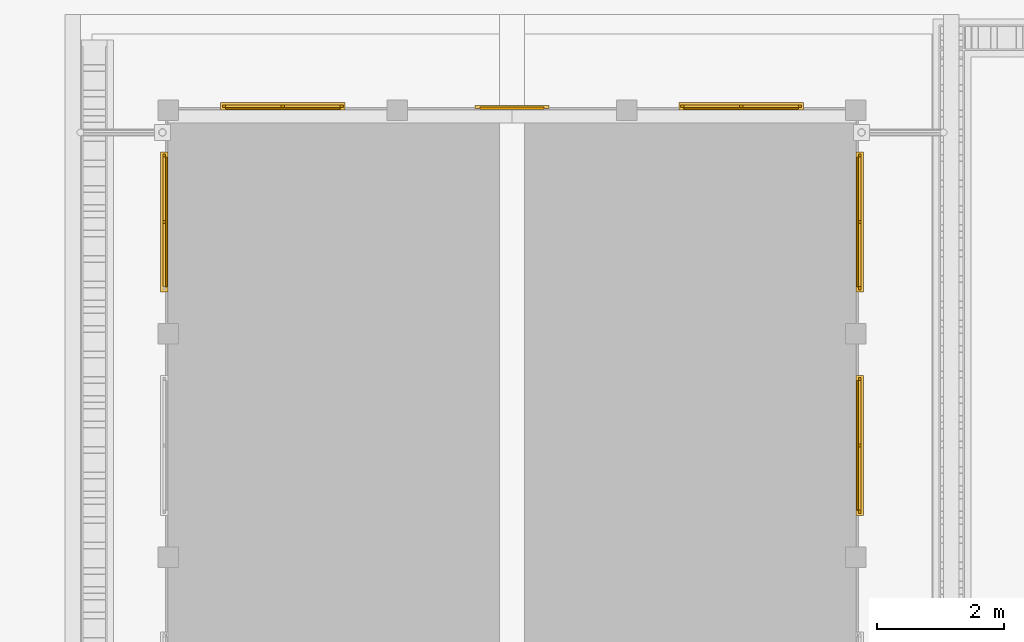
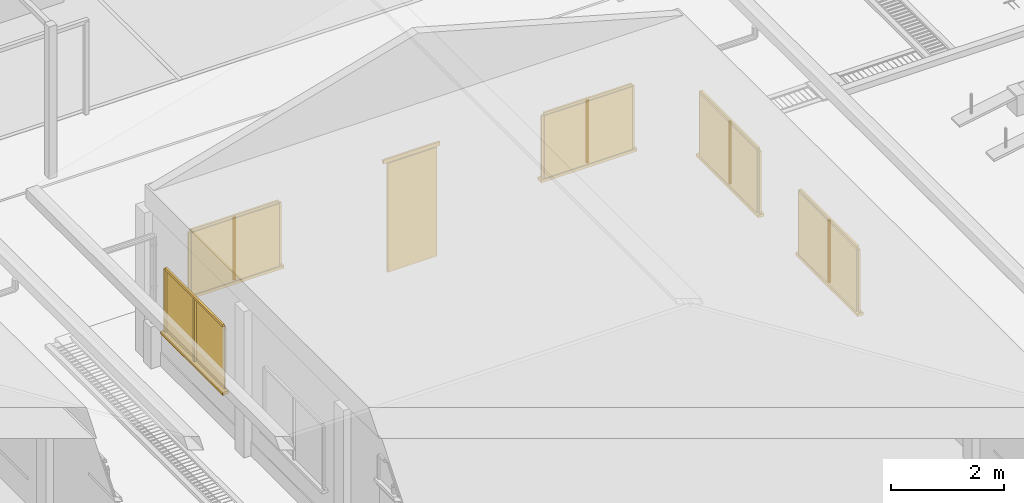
# One storey, part 50 of 151: 29 windows, 2 doors.
"""IFC2X3 building model written with IfcOpenShell, lengths in metres."""

from ifc_helpers import new_model, si_unit, origin, origin_with_axes, place, context, subcontext, project, spatial, faceted_brep, element, save


model = new_model("IFC2X3")

# Units and contexts
model_context = context("Model", 3, precision=1e-05, world=origin_with_axes())
body_context = subcontext(model_context, "Body", "Model", "MODEL_VIEW")
ifc_project = project(units=[si_unit("LENGTHUNIT", "METRE"), si_unit("AREAUNIT", "SQUARE_METRE"), si_unit("VOLUMEUNIT", "CUBIC_METRE"), si_unit("PLANEANGLEUNIT", "RADIAN")], contexts=[model_context])

# Site, building, storey
site_placement = place(None, origin_with_axes())
site = spatial("IfcSite", under=ifc_project, at=site_placement, Name="Predio Los Mangos - Morales, San Martín", CompositionType="ELEMENT")
building_placement = place(site_placement, origin())
building = spatial("IfcBuilding", under=site, at=building_placement, Name="Hogar de Refugio Temporal", CompositionType="ELEMENT")
storey_placement = place(building_placement, origin())
storey = spatial("IfcBuildingStorey", under=building, at=storey_placement, Name="NIVEL 1 (NPT +0.00)", CompositionType="ELEMENT", Elevation=0.0)

# Windows
window_1_placement = place(storey_placement, origin())
element("IfcWindow", 1, at=window_1_placement, inside=storey, Name="E-04_vg0_vid", ObjectType="Ventana", context=body_context, shape_type="Brep", body=[
    faceted_brep([(14.7, 87.22, 1.05), (14.7, 87.24, 1.05), (16.5, 87.24, 1.05), (16.5, 87.22, 1.05), (14.7, 87.22, 2.4), (16.5, 87.22, 2.4), (16.5, 87.24, 2.4), (14.7, 87.24, 2.4)], [[[0, 1, 2, 3]], [[4, 5, 6, 7]], [[0, 3, 5, 4]], [[3, 2, 6, 5]], [[2, 1, 7, 6]], [[1, 0, 4, 7]]]),
])
window_2_placement = place(storey_placement, origin())
element("IfcWindow", 2, at=window_2_placement, inside=storey, Name="E-04_vg0_m", ObjectType="Ventana", context=body_context, shape_type="Brep", body=[
    faceted_brep([(14.65, 87.24, 1.05), (14.65, 87.28, 1.05), (14.7, 87.28, 1.05), (14.7, 87.24, 1.05), (14.65, 87.24, 2.4), (14.7, 87.24, 2.4), (14.7, 87.28, 2.4), (14.65, 87.28, 2.4)], [[[0, 1, 2, 3]], [[4, 5, 6, 7]], [[0, 3, 5, 4]], [[3, 2, 6, 5]], [[2, 1, 7, 6]], [[1, 0, 4, 7]]]),
])
window_3_placement = place(storey_placement, origin())
element("IfcWindow", 3, at=window_3_placement, inside=storey, Name="E-04_vg0_m", ObjectType="Ventana", context=body_context, shape_type="Brep", body=[
    faceted_brep([(16.5, 87.24, 1.05), (16.5, 87.28, 1.05), (16.55, 87.28, 1.05), (16.55, 87.24, 1.05), (16.5, 87.24, 2.4), (16.55, 87.24, 2.4), (16.55, 87.28, 2.4), (16.5, 87.28, 2.4)], [[[0, 1, 2, 3]], [[4, 5, 6, 7]], [[0, 3, 5, 4]], [[3, 2, 6, 5]], [[2, 1, 7, 6]], [[1, 0, 4, 7]]]),
])
window_4_placement = place(storey_placement, origin())
element("IfcWindow", 4, at=window_4_placement, inside=storey, Name="E-04_vg0_m", ObjectType="Ventana", context=body_context, shape_type="Brep", body=[
    faceted_brep([(14.7, 87.24, 2.4), (14.7, 87.28, 2.4), (16.5, 87.28, 2.4), (16.5, 87.24, 2.4), (14.7, 87.24, 2.45), (16.5, 87.24, 2.45), (16.5, 87.28, 2.45), (14.7, 87.28, 2.45)], [[[0, 1, 2, 3]], [[4, 5, 6, 7]], [[0, 3, 5, 4]], [[3, 2, 6, 5]], [[2, 1, 7, 6]], [[1, 0, 4, 7]]]),
])
window_5_placement = place(storey_placement, origin())
element("IfcWindow", 5, at=window_5_placement, inside=storey, Name="E-04_vg0_m", ObjectType="Ventana", context=body_context, shape_type="Brep", body=[
    faceted_brep([(15.575, 87.24, 1.05), (15.575, 87.28, 1.05), (15.625, 87.28, 1.05), (15.625, 87.24, 1.05), (15.575, 87.24, 2.4), (15.625, 87.24, 2.4), (15.625, 87.28, 2.4), (15.575, 87.28, 2.4)], [[[0, 1, 2, 3]], [[4, 5, 6, 7]], [[0, 3, 5, 4]], [[3, 2, 6, 5]], [[2, 1, 7, 6]], [[1, 0, 4, 7]]]),
])
window_6_placement = place(storey_placement, origin())
element("IfcWindow", 6, at=window_6_placement, inside=storey, Name="E-04_vg0_alf", ObjectType="Ventana", context=body_context, shape_type="Brep", body=[
    faceted_brep([(14.62, 87.2, 0.99), (14.62, 87.32, 0.99), (16.58, 87.32, 0.99), (16.58, 87.2, 0.99), (14.62, 87.2, 1.05), (16.58, 87.2, 1.05), (16.58, 87.32, 1.05), (14.62, 87.32, 1.05)], [[[0, 1, 2, 3]], [[4, 5, 6, 7]], [[0, 3, 5, 4]], [[3, 2, 6, 5]], [[2, 1, 7, 6]], [[1, 0, 4, 7]]]),
])

# Doors
door_1_placement = place(storey_placement, origin())
element("IfcDoor", 7, at=door_1_placement, inside=storey, Name="E-04_pp", ObjectType="Puerta", context=body_context, shape_type="Brep", body=[
    faceted_brep([(18.7, 87.21, 0.15), (18.7, 87.25, 0.15), (19.7, 87.25, 0.15), (19.7, 87.21, 0.15), (18.7, 87.21, 2.5), (19.7, 87.21, 2.5), (19.7, 87.25, 2.5), (18.7, 87.25, 2.5)], [[[0, 1, 2, 3]], [[4, 5, 6, 7]], [[0, 3, 5, 4]], [[3, 2, 6, 5]], [[2, 1, 7, 6]], [[1, 0, 4, 7]]]),
])
door_2_placement = place(storey_placement, origin())
element("IfcDoor", 8, at=door_2_placement, inside=storey, Name="E-04_pp_marco", ObjectType="Puerta", context=body_context, shape_type="Brep", body=[
    faceted_brep([(18.62, 87.23, 2.5), (18.62, 87.27, 2.5), (19.78, 87.27, 2.5), (19.78, 87.23, 2.5), (18.62, 87.23, 2.58), (19.78, 87.23, 2.58), (19.78, 87.27, 2.58), (18.62, 87.27, 2.58)], [[[0, 1, 2, 3]], [[4, 5, 6, 7]], [[0, 3, 5, 4]], [[3, 2, 6, 5]], [[2, 1, 7, 6]], [[1, 0, 4, 7]]]),
])

# Windows
window_7_placement = place(storey_placement, origin())
element("IfcWindow", 9, at=window_7_placement, inside=storey, Name="E-04_vg2_vid", ObjectType="Ventana", context=body_context, shape_type="Brep", body=[
    faceted_brep([(21.9, 87.22, 1.05), (21.9, 87.24, 1.05), (23.7, 87.24, 1.05), (23.7, 87.22, 1.05), (21.9, 87.22, 2.4), (23.7, 87.22, 2.4), (23.7, 87.24, 2.4), (21.9, 87.24, 2.4)], [[[0, 1, 2, 3]], [[4, 5, 6, 7]], [[0, 3, 5, 4]], [[3, 2, 6, 5]], [[2, 1, 7, 6]], [[1, 0, 4, 7]]]),
])
window_8_placement = place(storey_placement, origin())
element("IfcWindow", 10, at=window_8_placement, inside=storey, Name="E-04_vg2_m", ObjectType="Ventana", context=body_context, shape_type="Brep", body=[
    faceted_brep([(21.85, 87.24, 1.05), (21.85, 87.28, 1.05), (21.9, 87.28, 1.05), (21.9, 87.24, 1.05), (21.85, 87.24, 2.4), (21.9, 87.24, 2.4), (21.9, 87.28, 2.4), (21.85, 87.28, 2.4)], [[[0, 1, 2, 3]], [[4, 5, 6, 7]], [[0, 3, 5, 4]], [[3, 2, 6, 5]], [[2, 1, 7, 6]], [[1, 0, 4, 7]]]),
])
window_9_placement = place(storey_placement, origin())
element("IfcWindow", 11, at=window_9_placement, inside=storey, Name="E-04_vg2_m", ObjectType="Ventana", context=body_context, shape_type="Brep", body=[
    faceted_brep([(23.7, 87.24, 1.05), (23.7, 87.28, 1.05), (23.75, 87.28, 1.05), (23.75, 87.24, 1.05), (23.7, 87.24, 2.4), (23.75, 87.24, 2.4), (23.75, 87.28, 2.4), (23.7, 87.28, 2.4)], [[[0, 1, 2, 3]], [[4, 5, 6, 7]], [[0, 3, 5, 4]], [[3, 2, 6, 5]], [[2, 1, 7, 6]], [[1, 0, 4, 7]]]),
])
window_10_placement = place(storey_placement, origin())
element("IfcWindow", 12, at=window_10_placement, inside=storey, Name="E-04_vg2_m", ObjectType="Ventana", context=body_context, shape_type="Brep", body=[
    faceted_brep([(21.9, 87.24, 2.4), (21.9, 87.28, 2.4), (23.7, 87.28, 2.4), (23.7, 87.24, 2.4), (21.9, 87.24, 2.45), (23.7, 87.24, 2.45), (23.7, 87.28, 2.45), (21.9, 87.28, 2.45)], [[[0, 1, 2, 3]], [[4, 5, 6, 7]], [[0, 3, 5, 4]], [[3, 2, 6, 5]], [[2, 1, 7, 6]], [[1, 0, 4, 7]]]),
])
window_11_placement = place(storey_placement, origin())
element("IfcWindow", 13, at=window_11_placement, inside=storey, Name="E-04_vg2_m", ObjectType="Ventana", context=body_context, shape_type="Brep", body=[
    faceted_brep([(22.775, 87.24, 1.05), (22.775, 87.28, 1.05), (22.825, 87.28, 1.05), (22.825, 87.24, 1.05), (22.775, 87.24, 2.4), (22.825, 87.24, 2.4), (22.825, 87.28, 2.4), (22.775, 87.28, 2.4)], [[[0, 1, 2, 3]], [[4, 5, 6, 7]], [[0, 3, 5, 4]], [[3, 2, 6, 5]], [[2, 1, 7, 6]], [[1, 0, 4, 7]]]),
])
window_12_placement = place(storey_placement, origin())
element("IfcWindow", 14, at=window_12_placement, inside=storey, Name="E-04_vg2_alf", ObjectType="Ventana", context=body_context, shape_type="Brep", body=[
    faceted_brep([(21.82, 87.2, 0.99), (21.82, 87.32, 0.99), (23.78, 87.32, 0.99), (23.78, 87.2, 0.99), (21.82, 87.2, 1.05), (23.78, 87.2, 1.05), (23.78, 87.32, 1.05), (21.82, 87.32, 1.05)], [[[0, 1, 2, 3]], [[4, 5, 6, 7]], [[0, 3, 5, 4]], [[3, 2, 6, 5]], [[2, 1, 7, 6]], [[1, 0, 4, 7]]]),
])
window_13_placement = place(storey_placement, origin())
element("IfcWindow", 15, at=window_13_placement, inside=storey, Name="E-04_v9_vid", ObjectType="Ventana", context=body_context, shape_type="Brep", body=[
    faceted_brep([(13.76, 84.4271, 1.05), (13.76, 86.4629, 1.05), (13.78, 86.4629, 1.05), (13.78, 84.4271, 1.05), (13.76, 84.4271, 2.4), (13.78, 84.4271, 2.4), (13.78, 86.4629, 2.4), (13.76, 86.4629, 2.4)], [[[0, 1, 2, 3]], [[4, 5, 6, 7]], [[0, 3, 5, 4]], [[3, 2, 6, 5]], [[2, 1, 7, 6]], [[1, 0, 4, 7]]]),
])
window_14_placement = place(storey_placement, origin())
element("IfcWindow", 16, at=window_14_placement, inside=storey, Name="E-04_v9_m", ObjectType="Ventana", context=body_context, shape_type="Brep", body=[
    faceted_brep([(13.72, 86.4629, 1.05), (13.72, 86.5129, 1.05), (13.76, 86.5129, 1.05), (13.76, 86.4629, 1.05), (13.72, 86.4629, 2.4), (13.76, 86.4629, 2.4), (13.76, 86.5129, 2.4), (13.72, 86.5129, 2.4)], [[[0, 1, 2, 3]], [[4, 5, 6, 7]], [[0, 3, 5, 4]], [[3, 2, 6, 5]], [[2, 1, 7, 6]], [[1, 0, 4, 7]]]),
])
window_15_placement = place(storey_placement, origin())
element("IfcWindow", 17, at=window_15_placement, inside=storey, Name="E-04_v9_m", ObjectType="Ventana", context=body_context, shape_type="Brep", body=[
    faceted_brep([(13.72, 84.4271, 2.4), (13.72, 86.4629, 2.4), (13.76, 86.4629, 2.4), (13.76, 84.4271, 2.4), (13.72, 84.4271, 2.45), (13.76, 84.4271, 2.45), (13.76, 86.4629, 2.45), (13.72, 86.4629, 2.45)], [[[0, 1, 2, 3]], [[4, 5, 6, 7]], [[0, 3, 5, 4]], [[3, 2, 6, 5]], [[2, 1, 7, 6]], [[1, 0, 4, 7]]]),
])
window_16_placement = place(storey_placement, origin())
element("IfcWindow", 18, at=window_16_placement, inside=storey, Name="E-04_v9_m", ObjectType="Ventana", context=body_context, shape_type="Brep", body=[
    faceted_brep([(13.72, 85.42, 1.05), (13.72, 85.47, 1.05), (13.76, 85.47, 1.05), (13.76, 85.42, 1.05), (13.72, 85.42, 2.4), (13.76, 85.42, 2.4), (13.76, 85.47, 2.4), (13.72, 85.47, 2.4)], [[[0, 1, 2, 3]], [[4, 5, 6, 7]], [[0, 3, 5, 4]], [[3, 2, 6, 5]], [[2, 1, 7, 6]], [[1, 0, 4, 7]]]),
])
window_17_placement = place(storey_placement, origin())
element("IfcWindow", 19, at=window_17_placement, inside=storey, Name="E-04_v9_alf", ObjectType="Ventana", context=body_context, shape_type="Brep", body=[
    faceted_brep([(13.8, 84.3471, 0.99), (13.8, 86.5429, 0.99), (13.68, 86.5429, 0.99), (13.68, 84.3471, 0.99), (13.8, 84.3471, 1.05), (13.68, 84.3471, 1.05), (13.68, 86.5429, 1.05), (13.8, 86.5429, 1.05)], [[[0, 1, 2, 3]], [[4, 5, 6, 7]], [[0, 3, 5, 4]], [[3, 2, 6, 5]], [[2, 1, 7, 6]], [[1, 0, 4, 7]]]),
])
window_18_placement = place(storey_placement, origin())
element("IfcWindow", 20, at=window_18_placement, inside=storey, Name="E-04_v8_vid", ObjectType="Ventana", context=body_context, shape_type="Brep", body=[
    faceted_brep([(24.62, 80.9171, 1.05), (24.62, 82.9529, 1.05), (24.64, 82.9529, 1.05), (24.64, 80.9171, 1.05), (24.62, 80.9171, 2.4), (24.64, 80.9171, 2.4), (24.64, 82.9529, 2.4), (24.62, 82.9529, 2.4)], [[[0, 1, 2, 3]], [[4, 5, 6, 7]], [[0, 3, 5, 4]], [[3, 2, 6, 5]], [[2, 1, 7, 6]], [[1, 0, 4, 7]]]),
])
window_19_placement = place(storey_placement, origin())
element("IfcWindow", 21, at=window_19_placement, inside=storey, Name="E-04_v8_m", ObjectType="Ventana", context=body_context, shape_type="Brep", body=[
    faceted_brep([(24.64, 80.8671, 1.05), (24.64, 80.9171, 1.05), (24.68, 80.9171, 1.05), (24.68, 80.8671, 1.05), (24.64, 80.8671, 2.4), (24.68, 80.8671, 2.4), (24.68, 80.9171, 2.4), (24.64, 80.9171, 2.4)], [[[0, 1, 2, 3]], [[4, 5, 6, 7]], [[0, 3, 5, 4]], [[3, 2, 6, 5]], [[2, 1, 7, 6]], [[1, 0, 4, 7]]]),
])
window_20_placement = place(storey_placement, origin())
element("IfcWindow", 22, at=window_20_placement, inside=storey, Name="E-04_v8_m", ObjectType="Ventana", context=body_context, shape_type="Brep", body=[
    faceted_brep([(24.64, 82.9529, 1.05), (24.64, 83.0029, 1.05), (24.68, 83.0029, 1.05), (24.68, 82.9529, 1.05), (24.64, 82.9529, 2.4), (24.68, 82.9529, 2.4), (24.68, 83.0029, 2.4), (24.64, 83.0029, 2.4)], [[[0, 1, 2, 3]], [[4, 5, 6, 7]], [[0, 3, 5, 4]], [[3, 2, 6, 5]], [[2, 1, 7, 6]], [[1, 0, 4, 7]]]),
])
window_21_placement = place(storey_placement, origin())
element("IfcWindow", 23, at=window_21_placement, inside=storey, Name="E-04_v8_m", ObjectType="Ventana", context=body_context, shape_type="Brep", body=[
    faceted_brep([(24.64, 80.9171, 2.4), (24.64, 82.9529, 2.4), (24.68, 82.9529, 2.4), (24.68, 80.9171, 2.4), (24.64, 80.9171, 2.45), (24.68, 80.9171, 2.45), (24.68, 82.9529, 2.45), (24.64, 82.9529, 2.45)], [[[0, 1, 2, 3]], [[4, 5, 6, 7]], [[0, 3, 5, 4]], [[3, 2, 6, 5]], [[2, 1, 7, 6]], [[1, 0, 4, 7]]]),
])
window_22_placement = place(storey_placement, origin())
element("IfcWindow", 24, at=window_22_placement, inside=storey, Name="E-04_v8_m", ObjectType="Ventana", context=body_context, shape_type="Brep", body=[
    faceted_brep([(24.64, 81.91, 1.05), (24.64, 81.96, 1.05), (24.68, 81.96, 1.05), (24.68, 81.91, 1.05), (24.64, 81.91, 2.4), (24.68, 81.91, 2.4), (24.68, 81.96, 2.4), (24.64, 81.96, 2.4)], [[[0, 1, 2, 3]], [[4, 5, 6, 7]], [[0, 3, 5, 4]], [[3, 2, 6, 5]], [[2, 1, 7, 6]], [[1, 0, 4, 7]]]),
])
window_23_placement = place(storey_placement, origin())
element("IfcWindow", 25, at=window_23_placement, inside=storey, Name="E-04_v8_alf", ObjectType="Ventana", context=body_context, shape_type="Brep", body=[
    faceted_brep([(24.6, 80.8371, 0.99), (24.6, 83.0329, 0.99), (24.72, 83.0329, 0.99), (24.72, 80.8371, 0.99), (24.6, 80.8371, 1.05), (24.72, 80.8371, 1.05), (24.72, 83.0329, 1.05), (24.6, 83.0329, 1.05)], [[[0, 1, 2, 3]], [[4, 5, 6, 7]], [[0, 3, 5, 4]], [[3, 2, 6, 5]], [[2, 1, 7, 6]], [[1, 0, 4, 7]]]),
])
window_24_placement = place(storey_placement, origin())
element("IfcWindow", 26, at=window_24_placement, inside=storey, Name="E-04_v9_vid", ObjectType="Ventana", context=body_context, shape_type="Brep", body=[
    faceted_brep([(24.62, 84.4271, 1.05), (24.62, 86.4629, 1.05), (24.64, 86.4629, 1.05), (24.64, 84.4271, 1.05), (24.62, 84.4271, 2.4), (24.64, 84.4271, 2.4), (24.64, 86.4629, 2.4), (24.62, 86.4629, 2.4)], [[[0, 1, 2, 3]], [[4, 5, 6, 7]], [[0, 3, 5, 4]], [[3, 2, 6, 5]], [[2, 1, 7, 6]], [[1, 0, 4, 7]]]),
])
window_25_placement = place(storey_placement, origin())
element("IfcWindow", 27, at=window_25_placement, inside=storey, Name="E-04_v9_m", ObjectType="Ventana", context=body_context, shape_type="Brep", body=[
    faceted_brep([(24.64, 84.3771, 1.05), (24.64, 84.4271, 1.05), (24.68, 84.4271, 1.05), (24.68, 84.3771, 1.05), (24.64, 84.3771, 2.4), (24.68, 84.3771, 2.4), (24.68, 84.4271, 2.4), (24.64, 84.4271, 2.4)], [[[0, 1, 2, 3]], [[4, 5, 6, 7]], [[0, 3, 5, 4]], [[3, 2, 6, 5]], [[2, 1, 7, 6]], [[1, 0, 4, 7]]]),
])
window_26_placement = place(storey_placement, origin())
element("IfcWindow", 28, at=window_26_placement, inside=storey, Name="E-04_v9_m", ObjectType="Ventana", context=body_context, shape_type="Brep", body=[
    faceted_brep([(24.64, 86.4629, 1.05), (24.64, 86.5129, 1.05), (24.68, 86.5129, 1.05), (24.68, 86.4629, 1.05), (24.64, 86.4629, 2.4), (24.68, 86.4629, 2.4), (24.68, 86.5129, 2.4), (24.64, 86.5129, 2.4)], [[[0, 1, 2, 3]], [[4, 5, 6, 7]], [[0, 3, 5, 4]], [[3, 2, 6, 5]], [[2, 1, 7, 6]], [[1, 0, 4, 7]]]),
])
window_27_placement = place(storey_placement, origin())
element("IfcWindow", 29, at=window_27_placement, inside=storey, Name="E-04_v9_m", ObjectType="Ventana", context=body_context, shape_type="Brep", body=[
    faceted_brep([(24.64, 84.4271, 2.4), (24.64, 86.4629, 2.4), (24.68, 86.4629, 2.4), (24.68, 84.4271, 2.4), (24.64, 84.4271, 2.45), (24.68, 84.4271, 2.45), (24.68, 86.4629, 2.45), (24.64, 86.4629, 2.45)], [[[0, 1, 2, 3]], [[4, 5, 6, 7]], [[0, 3, 5, 4]], [[3, 2, 6, 5]], [[2, 1, 7, 6]], [[1, 0, 4, 7]]]),
])
window_28_placement = place(storey_placement, origin())
element("IfcWindow", 30, at=window_28_placement, inside=storey, Name="E-04_v9_m", ObjectType="Ventana", context=body_context, shape_type="Brep", body=[
    faceted_brep([(24.64, 85.42, 1.05), (24.64, 85.47, 1.05), (24.68, 85.47, 1.05), (24.68, 85.42, 1.05), (24.64, 85.42, 2.4), (24.68, 85.42, 2.4), (24.68, 85.47, 2.4), (24.64, 85.47, 2.4)], [[[0, 1, 2, 3]], [[4, 5, 6, 7]], [[0, 3, 5, 4]], [[3, 2, 6, 5]], [[2, 1, 7, 6]], [[1, 0, 4, 7]]]),
])
window_29_placement = place(storey_placement, origin())
element("IfcWindow", 31, at=window_29_placement, inside=storey, Name="E-04_v9_alf", ObjectType="Ventana", context=body_context, shape_type="Brep", body=[
    faceted_brep([(24.6, 84.3471, 0.99), (24.6, 86.5429, 0.99), (24.72, 86.5429, 0.99), (24.72, 84.3471, 0.99), (24.6, 84.3471, 1.05), (24.72, 84.3471, 1.05), (24.72, 86.5429, 1.05), (24.6, 86.5429, 1.05)], [[[0, 1, 2, 3]], [[4, 5, 6, 7]], [[0, 3, 5, 4]], [[3, 2, 6, 5]], [[2, 1, 7, 6]], [[1, 0, 4, 7]]]),
])

save(model, "model.ifc")
